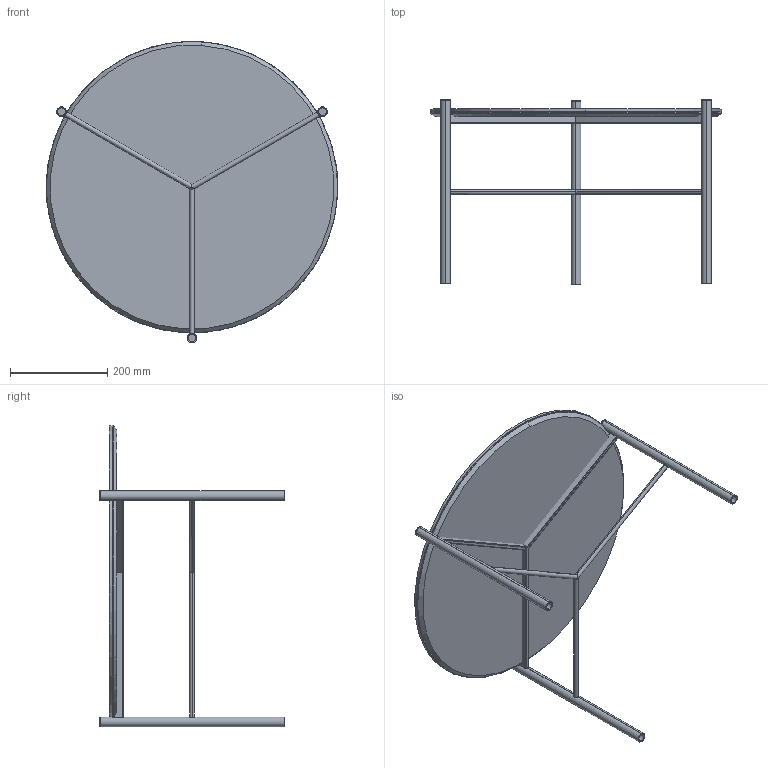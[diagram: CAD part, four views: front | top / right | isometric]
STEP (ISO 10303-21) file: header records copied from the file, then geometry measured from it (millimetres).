
FILE_DESCRIPTION (( 'STEP AP203' ), '1' );
FILE_NAME ('J201C.STEP', '2024-08-06T11:43:21', ( '' ), ( '' ), 'SwSTEP 2.0', 'SolidWorks 2022', '' );
FILE_SCHEMA (( 'CONFIG_CONTROL_DESIGN' ));
Length unit declared in the file: millimetre
Products named in the file (3): JXXXS00000000-00-jack metallo grezzo tutte le misure_J201S00000000-JACK TAVOLINO D.60x36h<A macchina>; K1XCMXX-00-Piani Rotondi in ceramica_D.600; J201C
Assembly tree (2 placements, depth 2):
  J201C
    JXXXS00000000-00-jack metallo grezzo tutte le misure_J201S00000000-JACK TAVOLINO D.60x36h<A macchina>
    K1XCMXX-00-Piani Rotondi in ceramica_D.600
Bounding box: 599.97 x 379 x 620.07 mm (x, y, z)
Volume: 5512842.1 mm3; surface area: 1996111.4 mm2
Topology: 15 solids, 15 shells, 131 faces, 303 edges, 200 vertices
Faces by surface type: cylinder 75, plane 54, cone 2
Entity records: 4654 total; most frequent: CARTESIAN_POINT 1471, ORIENTED_EDGE 606, DIRECTION 569, EDGE_CURVE 303, AXIS2_PLACEMENT_3D 208, VERTEX_POINT 200, VECTOR 153, LINE 153
